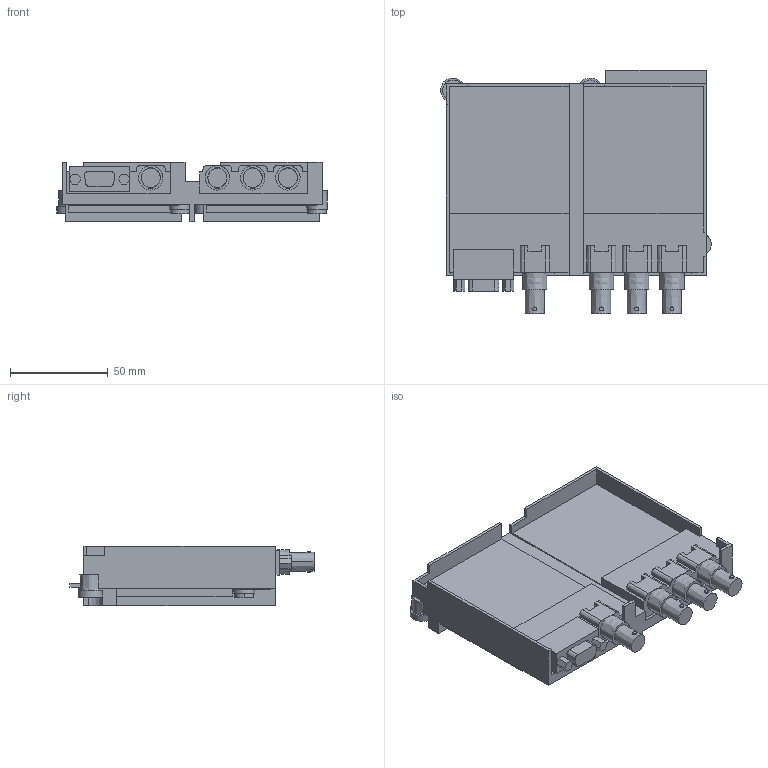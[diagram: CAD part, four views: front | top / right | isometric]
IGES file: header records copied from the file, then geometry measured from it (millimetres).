
Start section:  PTC IGES file: gt15v-75v4r1.igs
Global section: file name: gt15v-75v4r1.igs; native system: Pro/ENGINEER by Parametric Technology Corporation; preprocessor: 2006420; author: KW48605; organization: Unknown; date: 20100617.161554; units: millimetre
Bounding box: 138.1 x 124.51 x 30.6 mm (x, y, z)
Volume: 237048.1 mm3; surface area: 49992.6 mm2
Topology: 1 solids, 1 shells, 277 faces, 736 edges, 488 vertices
Faces by surface type: bspline 277
